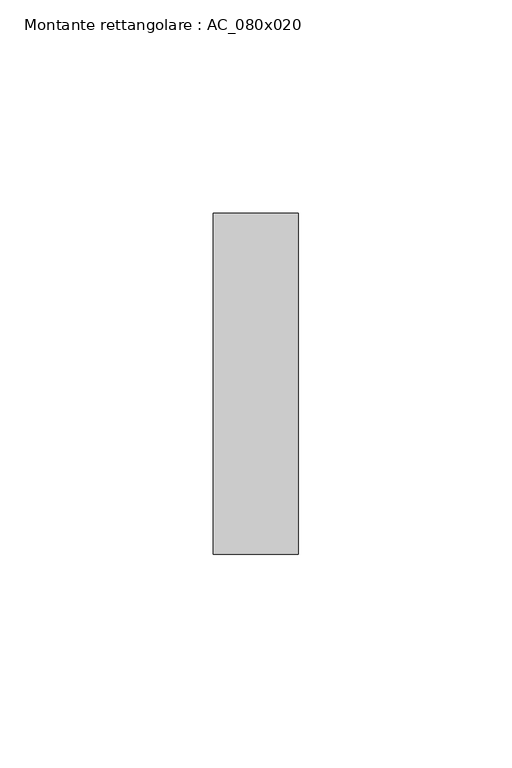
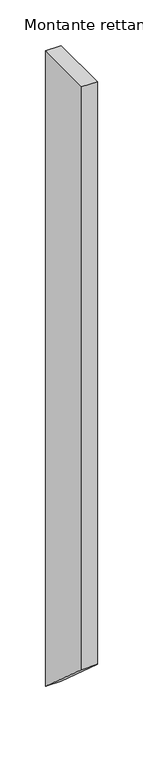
"""IFC4 building model written with IfcOpenShell, lengths in millimetres: member geometry, Montante rettangolare : AC_080x020."""

from ifc_helpers import new_model, si_unit, frame, origin, place, context, project, spatial, polyline, outline, extrude, source, transform, mapped, element, save


def montante_rettangolare_ac_080x020_a6ec7df7(model_context):
    return source(origin(), model_context, "Body", "SweptSolid", [
        extrude(outline(polyline([(-40.0, 0.0), (40.0, 0.0), (40.0, -852.0909921), (-40.0, -781.3129709), (-40.0, 0.0)])), frame((-20.0, 0.0, 0.0), z_axis=(1.0, 0.0, 0.0), x_axis=(0.0, 1.0, 0.0)), (0.0, 0.0, 1.0), 20.0),
    ])


if __name__ == "__main__":
    model = new_model("IFC4")
    model_context = context("Model", 3, world=origin())
    ifc_project = project(units=[si_unit("LENGTHUNIT", "METRE", prefix="MILLI")], contexts=[model_context])
    site = spatial("IfcSite", under=ifc_project)
    building = spatial("IfcBuilding", under=site)
    placement = place(None, origin())
    montante_rettangolare_ac_080x020_shape = montante_rettangolare_ac_080x020_a6ec7df7(model_context)
    element("IfcMember", 1, ObjectType="Montante rettangolare : AC_080x020", at=placement, inside=building, context=model_context, shape_type="MappedRepresentation", body=[
        mapped(montante_rettangolare_ac_080x020_shape, transform((0.0, 0.0, 0.0), x_axis=(1.0, 0.0, 0.0), y_axis=(0.0, 1.0, 0.0), z_axis=(0.0, 0.0, 1.0))),
    ])
    save(model, "model.ifc")
